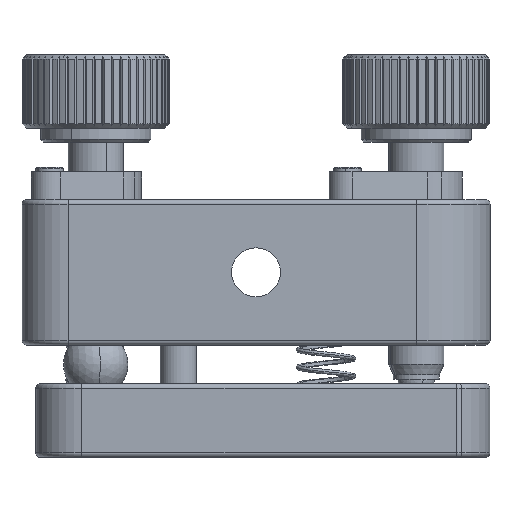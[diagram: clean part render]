
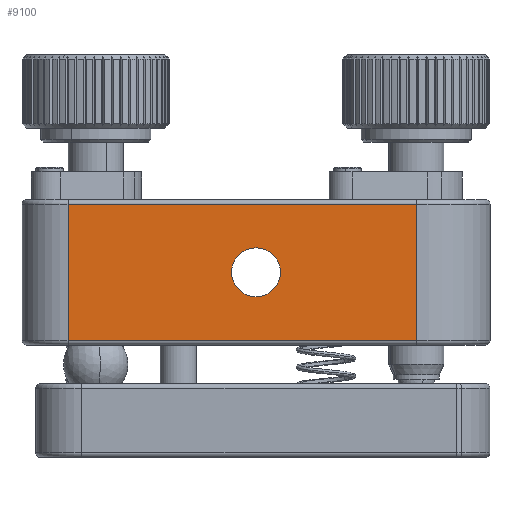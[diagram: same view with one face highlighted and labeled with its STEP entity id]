
A CAD part, front view. The second image highlights one B-rep face of the part: STEP entity #9100.
In plain terms, the highlighted planar face has unit normal (0, -1, 0).
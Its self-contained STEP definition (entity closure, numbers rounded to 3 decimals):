
#436 = DIRECTION ( 'NONE',  ( 0., -1., 0. ) ) ;
#501 = ORIENTED_EDGE ( 'NONE', *, *, #22814, .F. ) ;
#961 = EDGE_CURVE ( 'NONE', #21612, #28566, #34600, .T. ) ;
#1360 = CARTESIAN_POINT ( 'NONE',  ( 74.052, 27.866, -42.989 ) ) ;
#1733 = VECTOR ( 'NONE', #30531, 1000. ) ;
#3601 = EDGE_CURVE ( 'NONE', #32740, #26349, #8447, .T. ) ;
#4187 = EDGE_LOOP ( 'NONE', ( #34706, #24249, #501, #29376 ) ) ;
#4265 = CARTESIAN_POINT ( 'NONE',  ( 54.002, 27.866, -50.889 ) ) ;
#5466 = CIRCLE ( 'NONE', #25690, 2.65 ) ;
#5592 = CARTESIAN_POINT ( 'NONE',  ( 74.052, 27.866, -42.989 ) ) ;
#5603 = CARTESIAN_POINT ( 'NONE',  ( 74.052, 27.866, -58.289 ) ) ;
#5998 = VERTEX_POINT ( 'NONE', #28972 ) ;
#7690 = AXIS2_PLACEMENT_3D ( 'NONE', #5592, #16631, #27654 ) ;
#7973 = CARTESIAN_POINT ( 'NONE',  ( 56.652, 27.866, -50.889 ) ) ;
#8308 = FACE_BOUND ( 'NONE', #34916, .T. ) ;
#8447 = LINE ( 'NONE', #19486, #1733 ) ;
#9100 = ADVANCED_FACE ( 'NONE', ( #8308, #19351 ), #30393, .F. ) ;
#10800 = VECTOR ( 'NONE', #12443, 1000. ) ;
#11434 = LINE ( 'NONE', #22465, #23880 ) ;
#11513 = DIRECTION ( 'NONE',  ( 1., 0., 0. ) ) ;
#12443 = DIRECTION ( 'NONE',  ( 0., 0., -1. ) ) ;
#13620 = LINE ( 'NONE', #24643, #14851 ) ;
#14851 = VECTOR ( 'NONE', #35736, 1000. ) ;
#15231 = CARTESIAN_POINT ( 'NONE',  ( 36.252, 27.866, -58.289 ) ) ;
#15902 = ORIENTED_EDGE ( 'NONE', *, *, #25304, .F. ) ;
#16631 = DIRECTION ( 'NONE',  ( 0., 1., 0. ) ) ;
#17808 = AXIS2_PLACEMENT_3D ( 'NONE', #25250, #436, #11513 ) ;
#18528 = CARTESIAN_POINT ( 'NONE',  ( 36.252, 27.866, -43.489 ) ) ;
#19013 = DIRECTION ( 'NONE',  ( 0., -1., 0. ) ) ;
#19351 = FACE_OUTER_BOUND ( 'NONE', #4187, .T. ) ;
#19486 = CARTESIAN_POINT ( 'NONE',  ( 36.252, 27.866, -42.989 ) ) ;
#21293 = CARTESIAN_POINT ( 'NONE',  ( 59.302, 27.866, -50.889 ) ) ;
#21612 = VERTEX_POINT ( 'NONE', #21293 ) ;
#22465 = CARTESIAN_POINT ( 'NONE',  ( 36.252, 27.866, -43.489 ) ) ;
#22814 = EDGE_CURVE ( 'NONE', #5998, #32049, #26174, .T. ) ;
#23880 = VECTOR ( 'NONE', #33539, 1000. ) ;
#24016 = EDGE_CURVE ( 'NONE', #5998, #32740, #11434, .T. ) ;
#24249 = ORIENTED_EDGE ( 'NONE', *, *, #35434, .T. ) ;
#24643 = CARTESIAN_POINT ( 'NONE',  ( 74.052, 27.866, -58.289 ) ) ;
#25250 = CARTESIAN_POINT ( 'NONE',  ( 56.652, 27.866, -50.889 ) ) ;
#25304 = EDGE_CURVE ( 'NONE', #28566, #21612, #5466, .T. ) ;
#25690 = AXIS2_PLACEMENT_3D ( 'NONE', #7973, #19013, #30055 ) ;
#26174 = LINE ( 'NONE', #1360, #10800 ) ;
#26349 = VERTEX_POINT ( 'NONE', #15231 ) ;
#27654 = DIRECTION ( 'NONE',  ( -1., 0., 0. ) ) ;
#28566 = VERTEX_POINT ( 'NONE', #4265 ) ;
#28972 = CARTESIAN_POINT ( 'NONE',  ( 74.052, 27.866, -43.489 ) ) ;
#29376 = ORIENTED_EDGE ( 'NONE', *, *, #24016, .T. ) ;
#30055 = DIRECTION ( 'NONE',  ( 1., 0., 0. ) ) ;
#30393 = PLANE ( 'NONE',  #7690 ) ;
#30531 = DIRECTION ( 'NONE',  ( 0., 0., -1. ) ) ;
#31135 = ORIENTED_EDGE ( 'NONE', *, *, #961, .F. ) ;
#32049 = VERTEX_POINT ( 'NONE', #5603 ) ;
#32740 = VERTEX_POINT ( 'NONE', #18528 ) ;
#33539 = DIRECTION ( 'NONE',  ( -1., 0., 0. ) ) ;
#34600 = CIRCLE ( 'NONE', #17808, 2.65 ) ;
#34706 = ORIENTED_EDGE ( 'NONE', *, *, #3601, .T. ) ;
#34916 = EDGE_LOOP ( 'NONE', ( #31135, #15902 ) ) ;
#35434 = EDGE_CURVE ( 'NONE', #26349, #32049, #13620, .T. ) ;
#35736 = DIRECTION ( 'NONE',  ( 1., 0., 0. ) ) ;
